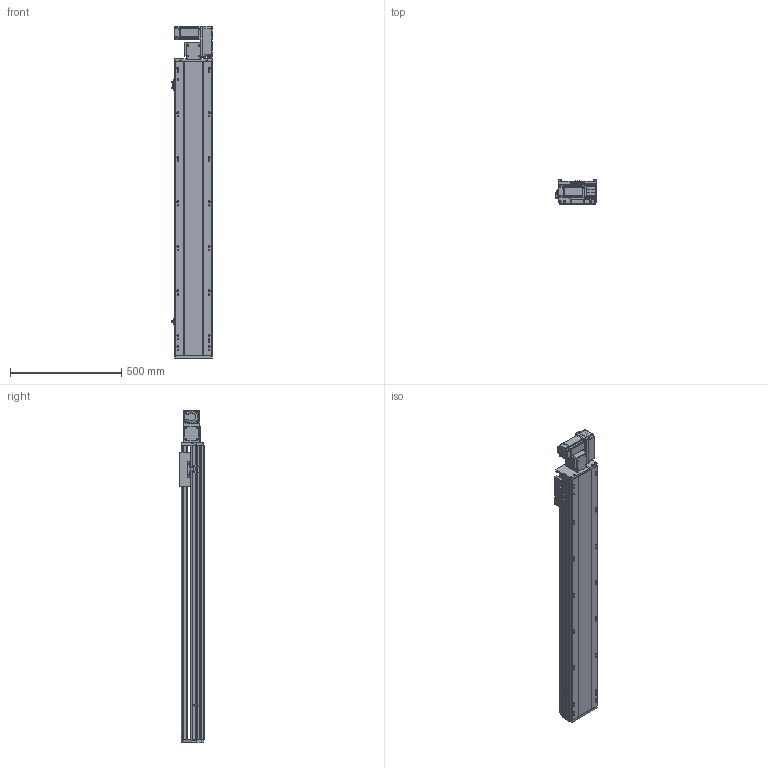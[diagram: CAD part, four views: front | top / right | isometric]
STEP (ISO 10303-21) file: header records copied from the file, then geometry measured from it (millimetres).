
FILE_DESCRIPTION (( 'STEP AP214' ), '1' );
FILE_NAME ('RTB17S-XX-1050-R-M40-C4.STEP', '2025-12-11T07:38:08', ( '' ), ( '' ), 'SwSTEP 2.0', 'SolidWorks 2018', '' );
FILE_SCHEMA (( 'AUTOMOTIVE_DESIGN' ));
Length unit declared in the file: millimetre
Products named in the file (14): RTB17S-L-001耜醱啣^RTB17S-XX-XX-R-M40-C4; RTB17S-L-007奻裔^RTB17S-XX-XX-R-M40-C4; RTB17S-XX-1050-R-M40-C4; RTB17S-R-々湍釱蚾饜-400W^RTB17S-XX-XX-R-M40-C4; RTH13-BL-012覜茼え俋离^RTB17S-XX-XX-R-M40-C4; RTB14-L-017P^RTB17S-R-々湍釱蚾饜-400W_RTB17S-XX-XX-R-M40-C4; RTB14-L-008-M20--萇儂啣^RTB17S-R-々湍釱蚾饜-400W_RTB17S-XX-XX-R-M40-C4; RTB14-L-005P--轴承塑胶压盖^RTB17S-R-皮带座装配-400W_RTB17S-XX-XX-R-M40-C4; RTB17-R-011菁釱^RTB17S-XX-XX-R-M40-C4; RTB17S-L-004佪裝蹟譫蟀諉釱^RTB17S-XX-XX-R-M40-C4; RTB14-L-018P^RTB17S-R-々湍釱蚾饜-400W_RTB17S-XX-XX-R-M40-C4; RTB17S-L-014-T20--々湍釱^RTB17S-R-々湍釱蚾饜-400W_RTB17S-XX-XX-R-M40-C4; 400W侜督萇儂^RTB17S-XX-XX-R-M40-C4; OMRON EE-SX672 传感器^RTB17S-XX-XX-R-M40-C4
Assembly tree (16 placements, depth 3):
  RTB17S-XX-1050-R-M40-C4
    RTB17-R-011菁釱^RTB17S-XX-XX-R-M40-C4
    RTB17S-L-007奻裔^RTB17S-XX-XX-R-M40-C4
    OMRON EE-SX672 传感器^RTB17S-XX-XX-R-M40-C4  x3
    RTB17S-L-001耜醱啣^RTB17S-XX-XX-R-M40-C4
    400W侜督萇儂^RTB17S-XX-XX-R-M40-C4
    RTB17S-L-004佪裝蹟譫蟀諉釱^RTB17S-XX-XX-R-M40-C4
    RTH13-BL-012覜茼え俋离^RTB17S-XX-XX-R-M40-C4
    RTB17S-R-々湍釱蚾饜-400W^RTB17S-XX-XX-R-M40-C4
      RTB17S-L-014-T20--々湍釱^RTB17S-R-々湍釱蚾饜-400W_RTB17S-XX-XX-R-M40-C4
      RTB14-L-005P--轴承塑胶压盖^RTB17S-R-皮带座装配-400W_RTB17S-XX-XX-R-M40-C4
      RTB14-L-008-M20--萇儂啣^RTB17S-R-々湍釱蚾饜-400W_RTB17S-XX-XX-R-M40-C4
      RTB14-L-017P^RTB17S-R-々湍釱蚾饜-400W_RTB17S-XX-XX-R-M40-C4  x2
      RTB14-L-018P^RTB17S-R-々湍釱蚾饜-400W_RTB17S-XX-XX-R-M40-C4
Bounding box: 183.5 x 108 x 1491 mm (x, y, z)
Volume: 12776869.5 mm3; surface area: 1544328 mm2
Topology: 15 solids, 15 shells, 2221 faces, 6141 edges, 4005 vertices
Faces by surface type: plane 1070, cylinder 703, bspline 301, cone 139, torus 8
Entity records: 63401 total; most frequent: CARTESIAN_POINT 17746, ORIENTED_EDGE 9126, DIRECTION 8486, EDGE_CURVE 4563, VERTEX_POINT 2993, AXIS2_PLACEMENT_3D 2923, LINE 2640, VECTOR 2640
